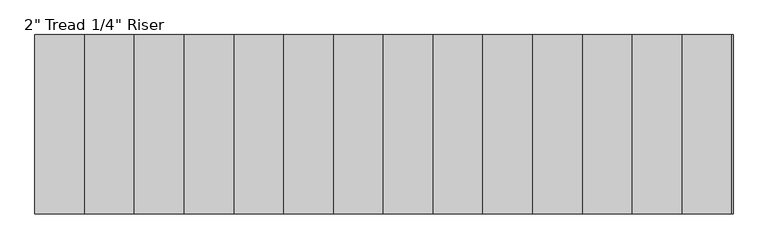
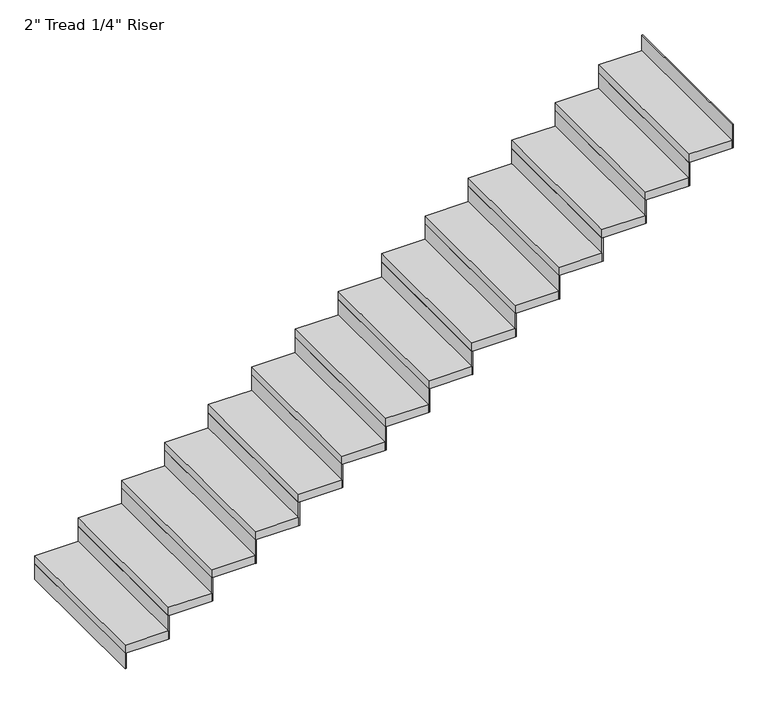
"""IFC4 building model written with IfcOpenShell, lengths in millimetres: stair flight geometry."""

from ifc_helpers import new_model, si_unit, frame, origin, origin_with_axes, place, context, project, spatial, polyline, outline, extrude, source, transform, mapped, element, save


def stair_flight_28026eea(model_context):
    return source(origin(), model_context, "Body", "SweptSolid", [
        extrude(outline(polyline([(84192.7265442, 32332.2812523), (84186.3765442, 32332.2812523), (84186.3765442, 33246.6812523), (84192.7265442, 33246.6812523), (84192.7265442, 32332.2812523)])), origin_with_axes(), (0.0, 0.0, 1.0), 94.3428571),
        extrude(outline(polyline([(84440.3765442, 33246.6812523), (84440.3765442, 32332.2812523), (84186.3765442, 32332.2812523), (84186.3765442, 33246.6812523), (84440.3765442, 33246.6812523)])), frame((0.0, 0.0, 94.3428571), z_axis=(0.0, 0.0, 1.0), x_axis=(1.0, 0.0, 0.0)), (0.0, 0.0, 1.0), 50.8),
        extrude(outline(polyline([(84446.7265442, 32332.2812523), (84440.3765442, 32332.2812523), (84440.3765442, 33246.6812523), (84446.7265442, 33246.6812523), (84446.7265442, 32332.2812523)])), frame((0.0, 0.0, 94.3428571), z_axis=(0.0, 0.0, 1.0), x_axis=(1.0, 0.0, 0.0)), (0.0, 0.0, 1.0), 145.1428571),
        extrude(outline(polyline([(84694.3765442, 33246.6812523), (84694.3765442, 32332.2812523), (84440.3765442, 32332.2812523), (84440.3765442, 33246.6812523), (84694.3765442, 33246.6812523)])), frame((0.0, 0.0, 239.4857143), z_axis=(0.0, 0.0, 1.0), x_axis=(1.0, 0.0, 0.0)), (0.0, 0.0, 1.0), 50.8),
        extrude(outline(polyline([(84700.7265442, 32332.2812523), (84694.3765442, 32332.2812523), (84694.3765442, 33246.6812523), (84700.7265442, 33246.6812523), (84700.7265442, 32332.2812523)])), frame((0.0, 0.0, 239.4857143), z_axis=(0.0, 0.0, 1.0), x_axis=(1.0, 0.0, 0.0)), (0.0, 0.0, 1.0), 145.1428571),
        extrude(outline(polyline([(84948.3765442, 33246.6812523), (84948.3765442, 32332.2812523), (84694.3765442, 32332.2812523), (84694.3765442, 33246.6812523), (84948.3765442, 33246.6812523)])), frame((0.0, 0.0, 384.6285714), z_axis=(0.0, 0.0, 1.0), x_axis=(1.0, 0.0, 0.0)), (0.0, 0.0, 1.0), 50.8),
        extrude(outline(polyline([(84954.7265442, 32332.2812523), (84948.3765442, 32332.2812523), (84948.3765442, 33246.6812523), (84954.7265442, 33246.6812523), (84954.7265442, 32332.2812523)])), frame((0.0, 0.0, 384.6285714), z_axis=(0.0, 0.0, 1.0), x_axis=(1.0, 0.0, 0.0)), (0.0, 0.0, 1.0), 145.1428571),
        extrude(outline(polyline([(85202.3765442, 33246.6812523), (85202.3765442, 32332.2812523), (84948.3765442, 32332.2812523), (84948.3765442, 33246.6812523), (85202.3765442, 33246.6812523)])), frame((0.0, 0.0, 529.7714286), z_axis=(0.0, 0.0, 1.0), x_axis=(1.0, 0.0, 0.0)), (0.0, 0.0, 1.0), 50.8),
        extrude(outline(polyline([(85208.7265442, 32332.2812523), (85202.3765442, 32332.2812523), (85202.3765442, 33246.6812523), (85208.7265442, 33246.6812523), (85208.7265442, 32332.2812523)])), frame((0.0, 0.0, 529.7714286), z_axis=(0.0, 0.0, 1.0), x_axis=(1.0, 0.0, 0.0)), (0.0, 0.0, 1.0), 145.1428571),
        extrude(outline(polyline([(85456.3765442, 33246.6812523), (85456.3765442, 32332.2812523), (85202.3765442, 32332.2812523), (85202.3765442, 33246.6812523), (85456.3765442, 33246.6812523)])), frame((0.0, 0.0, 674.9142857), z_axis=(0.0, 0.0, 1.0), x_axis=(1.0, 0.0, 0.0)), (0.0, 0.0, 1.0), 50.8),
        extrude(outline(polyline([(85462.7265442, 32332.2812523), (85456.3765442, 32332.2812523), (85456.3765442, 33246.6812523), (85462.7265442, 33246.6812523), (85462.7265442, 32332.2812523)])), frame((0.0, 0.0, 674.9142857), z_axis=(0.0, 0.0, 1.0), x_axis=(1.0, 0.0, 0.0)), (0.0, 0.0, 1.0), 145.1428571),
        extrude(outline(polyline([(85710.3765442, 33246.6812523), (85710.3765442, 32332.2812523), (85456.3765442, 32332.2812523), (85456.3765442, 33246.6812523), (85710.3765442, 33246.6812523)])), frame((0.0, 0.0, 820.0571429), z_axis=(0.0, 0.0, 1.0), x_axis=(1.0, 0.0, 0.0)), (0.0, 0.0, 1.0), 50.8),
        extrude(outline(polyline([(85716.7265442, 32332.2812523), (85710.3765442, 32332.2812523), (85710.3765442, 33246.6812523), (85716.7265442, 33246.6812523), (85716.7265442, 32332.2812523)])), frame((0.0, 0.0, 820.0571429), z_axis=(0.0, 0.0, 1.0), x_axis=(1.0, 0.0, 0.0)), (0.0, 0.0, 1.0), 145.1428571),
        extrude(outline(polyline([(85964.3765442, 33246.6812523), (85964.3765442, 32332.2812523), (85710.3765442, 32332.2812523), (85710.3765442, 33246.6812523), (85964.3765442, 33246.6812523)])), frame((0.0, 0.0, 965.2), z_axis=(0.0, 0.0, 1.0), x_axis=(1.0, 0.0, 0.0)), (0.0, 0.0, 1.0), 50.8),
        extrude(outline(polyline([(85970.7265442, 32332.2812523), (85964.3765442, 32332.2812523), (85964.3765442, 33246.6812523), (85970.7265442, 33246.6812523), (85970.7265442, 32332.2812523)])), frame((0.0, 0.0, 965.2), z_axis=(0.0, 0.0, 1.0), x_axis=(1.0, 0.0, 0.0)), (0.0, 0.0, 1.0), 145.1428571),
        extrude(outline(polyline([(86218.3765442, 33246.6812523), (86218.3765442, 32332.2812523), (85964.3765442, 32332.2812523), (85964.3765442, 33246.6812523), (86218.3765442, 33246.6812523)])), frame((0.0, 0.0, 1110.3428571), z_axis=(0.0, 0.0, 1.0), x_axis=(1.0, 0.0, 0.0)), (0.0, 0.0, 1.0), 50.8),
        extrude(outline(polyline([(86224.7265442, 32332.2812523), (86218.3765442, 32332.2812523), (86218.3765442, 33246.6812523), (86224.7265442, 33246.6812523), (86224.7265442, 32332.2812523)])), frame((0.0, 0.0, 1110.3428571), z_axis=(0.0, 0.0, 1.0), x_axis=(1.0, 0.0, 0.0)), (0.0, 0.0, 1.0), 145.1428571),
        extrude(outline(polyline([(86472.3765442, 33246.6812523), (86472.3765442, 32332.2812523), (86218.3765442, 32332.2812523), (86218.3765442, 33246.6812523), (86472.3765442, 33246.6812523)])), frame((0.0, 0.0, 1255.4857143), z_axis=(0.0, 0.0, 1.0), x_axis=(1.0, 0.0, 0.0)), (0.0, 0.0, 1.0), 50.8),
        extrude(outline(polyline([(86478.7265442, 32332.2812523), (86472.3765442, 32332.2812523), (86472.3765442, 33246.6812523), (86478.7265442, 33246.6812523), (86478.7265442, 32332.2812523)])), frame((0.0, 0.0, 1255.4857143), z_axis=(0.0, 0.0, 1.0), x_axis=(1.0, 0.0, 0.0)), (0.0, 0.0, 1.0), 145.1428571),
        extrude(outline(polyline([(86726.3765442, 33246.6812523), (86726.3765442, 32332.2812523), (86472.3765442, 32332.2812523), (86472.3765442, 33246.6812523), (86726.3765442, 33246.6812523)])), frame((0.0, 0.0, 1400.6285714), z_axis=(0.0, 0.0, 1.0), x_axis=(1.0, 0.0, 0.0)), (0.0, 0.0, 1.0), 50.8),
        extrude(outline(polyline([(86732.7265442, 32332.2812523), (86726.3765442, 32332.2812523), (86726.3765442, 33246.6812523), (86732.7265442, 33246.6812523), (86732.7265442, 32332.2812523)])), frame((0.0, 0.0, 1400.6285714), z_axis=(0.0, 0.0, 1.0), x_axis=(1.0, 0.0, 0.0)), (0.0, 0.0, 1.0), 145.1428571),
        extrude(outline(polyline([(86980.3765442, 33246.6812523), (86980.3765442, 32332.2812523), (86726.3765442, 32332.2812523), (86726.3765442, 33246.6812523), (86980.3765442, 33246.6812523)])), frame((0.0, 0.0, 1545.7714286), z_axis=(0.0, 0.0, 1.0), x_axis=(1.0, 0.0, 0.0)), (0.0, 0.0, 1.0), 50.8),
        extrude(outline(polyline([(86986.7265442, 32332.2812523), (86980.3765442, 32332.2812523), (86980.3765442, 33246.6812523), (86986.7265442, 33246.6812523), (86986.7265442, 32332.2812523)])), frame((0.0, 0.0, 1545.7714286), z_axis=(0.0, 0.0, 1.0), x_axis=(1.0, 0.0, 0.0)), (0.0, 0.0, 1.0), 145.1428571),
        extrude(outline(polyline([(87234.3765442, 33246.6812523), (87234.3765442, 32332.2812523), (86980.3765442, 32332.2812523), (86980.3765442, 33246.6812523), (87234.3765442, 33246.6812523)])), frame((0.0, 0.0, 1690.9142857), z_axis=(0.0, 0.0, 1.0), x_axis=(1.0, 0.0, 0.0)), (0.0, 0.0, 1.0), 50.8),
        extrude(outline(polyline([(87240.7265442, 32332.2812523), (87234.3765442, 32332.2812523), (87234.3765442, 33246.6812523), (87240.7265442, 33246.6812523), (87240.7265442, 32332.2812523)])), frame((0.0, 0.0, 1690.9142857), z_axis=(0.0, 0.0, 1.0), x_axis=(1.0, 0.0, 0.0)), (0.0, 0.0, 1.0), 145.1428571),
        extrude(outline(polyline([(87488.3765442, 33246.6812523), (87488.3765442, 32332.2812523), (87234.3765442, 32332.2812523), (87234.3765442, 33246.6812523), (87488.3765442, 33246.6812523)])), frame((0.0, 0.0, 1836.0571429), z_axis=(0.0, 0.0, 1.0), x_axis=(1.0, 0.0, 0.0)), (0.0, 0.0, 1.0), 50.8),
        extrude(outline(polyline([(87494.7265442, 32332.2812523), (87488.3765442, 32332.2812523), (87488.3765442, 33246.6812523), (87494.7265442, 33246.6812523), (87494.7265442, 32332.2812523)])), frame((0.0, 0.0, 1836.0571429), z_axis=(0.0, 0.0, 1.0), x_axis=(1.0, 0.0, 0.0)), (0.0, 0.0, 1.0), 145.1428571),
        extrude(outline(polyline([(87748.7265442, 32332.2812523), (87742.3765442, 32332.2812523), (87742.3765442, 33246.6812523), (87748.7265442, 33246.6812523), (87748.7265442, 32332.2812523)])), frame((0.0, 0.0, 1981.2), z_axis=(0.0, 0.0, 1.0), x_axis=(1.0, 0.0, 0.0)), (0.0, 0.0, 1.0), 145.1428571),
        extrude(outline(polyline([(87742.3765442, 33246.6812523), (87742.3765442, 32332.2812523), (87488.3765442, 32332.2812523), (87488.3765442, 33246.6812523), (87742.3765442, 33246.6812523)])), frame((0.0, 0.0, 1981.2), z_axis=(0.0, 0.0, 1.0), x_axis=(1.0, 0.0, 0.0)), (0.0, 0.0, 1.0), 50.8),
    ])


if __name__ == "__main__":
    model = new_model("IFC4")
    model_context = context("Model", 3, world=origin())
    ifc_project = project(units=[si_unit("LENGTHUNIT", "METRE", prefix="MILLI")], contexts=[model_context])
    site = spatial("IfcSite", under=ifc_project)
    building = spatial("IfcBuilding", under=site)
    placement = place(None, origin())
    stair_flight_shape = stair_flight_28026eea(model_context)
    element("IfcStairFlight", 1, ObjectType="2\" Tread 1/4\" Riser", at=placement, inside=building, context=model_context, shape_type="MappedRepresentation", body=[
        mapped(stair_flight_shape, transform((0.0, 0.0, 0.0), x_axis=(1.0, 0.0, 0.0), y_axis=(0.0, 1.0, 0.0), z_axis=(0.0, 0.0, 1.0))),
    ])
    save(model, "model.ifc")
